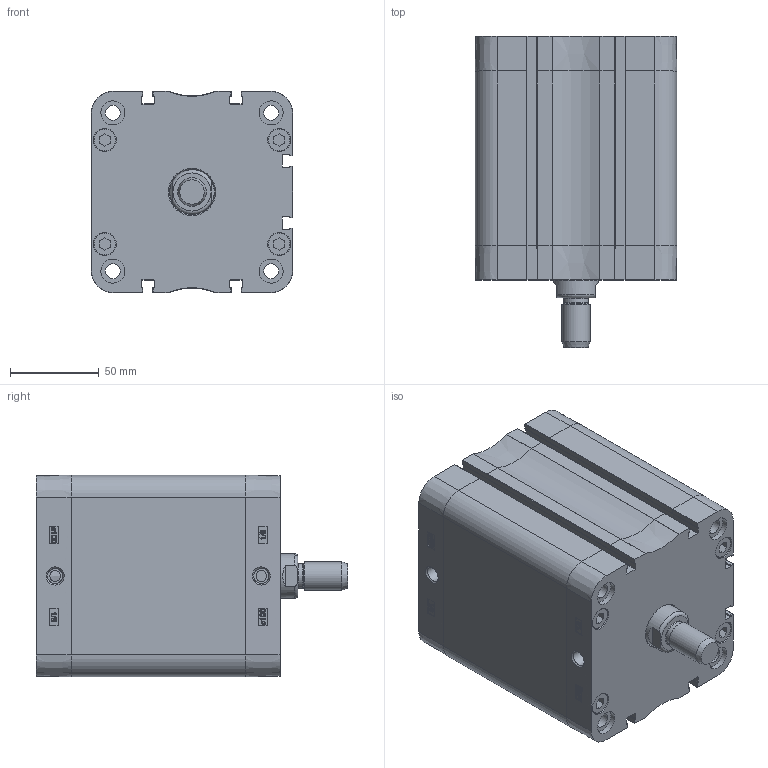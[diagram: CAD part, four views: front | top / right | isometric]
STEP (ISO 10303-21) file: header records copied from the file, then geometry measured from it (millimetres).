
FILE_DESCRIPTION((''),'2;1');
FILE_NAME('T:\Archivio Inventor\- CATALOGHI 2012\SERIE P - NUOVA\PDM\PDM100\PDM100.---.GS.M\PDM100.070.GS.M.stp','2013-02-05T11:43:03',('Administrator'),(''),'Autodesk Inventor 2012','Autodesk Inventor 2012','');
FILE_SCHEMA(('CONFIG_CONTROL_DESIGN'));
Length unit declared in the file: millimetre
Products named in the file (1): PDM100.070.GS.M
Bounding box: 113.3 x 175 x 113.3 mm (x, y, z)
Volume: 732382 mm3; surface area: 210091.2 mm2
Topology: 1 solids, 5 shells, 908 faces, 2136 edges, 1312 vertices
Faces by surface type: plane 371, bspline 226, cylinder 148, cone 81, torus 58, sphere 24
Full cylindrical faces by diameter (mm): 6 x2, 8.3 x4, 8.376 x8, 8.566 x2, 9.976 x4, 12 x1, 12.7 x8, 13.1 x8, 13.5 x8, 14 x1, 16 x1, 25 x1, 25.5 x1, 100 x1, 103.5 x1, 103.7 x1
Entity records: 29567 total; most frequent: CARTESIAN_POINT 9699, ORIENTED_EDGE 4030, DIRECTION 3400, EDGE_CURVE 2015, VERTEX_POINT 1291, AXIS2_PLACEMENT_3D 1208, EDGE_LOOP 1088, VECTOR 984
